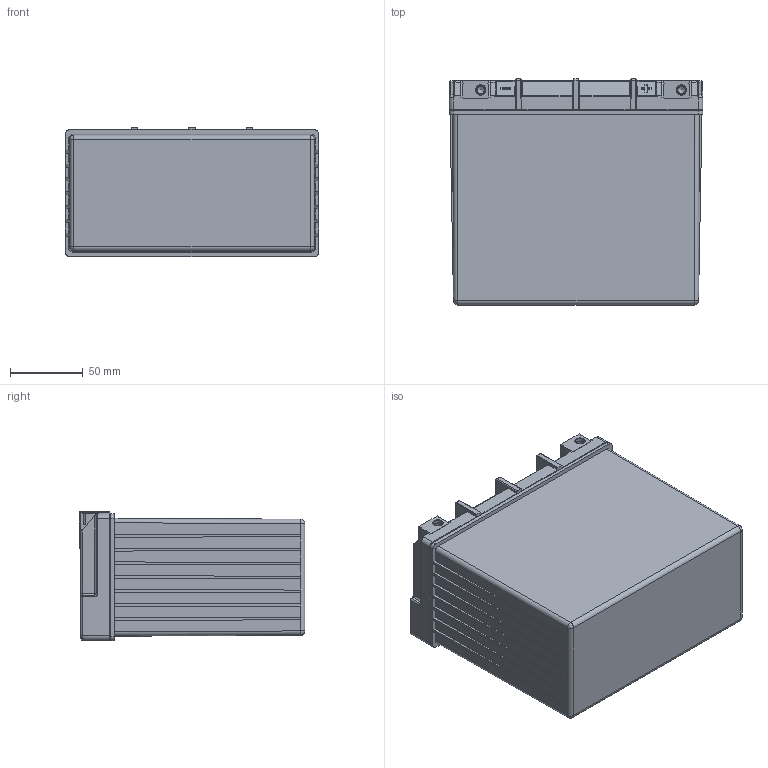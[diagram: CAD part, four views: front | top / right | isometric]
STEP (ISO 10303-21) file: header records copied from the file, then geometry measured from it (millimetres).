
FILE_DESCRIPTION (( 'STEP AP203' ), '1' );
FILE_NAME ('ODS-AGM20L.STEP', '2024-02-26T20:00:16', ( '' ), ( '' ), 'SwSTEP 2.0', 'SolidWorks 2022', '' );
FILE_SCHEMA (( 'CONFIG_CONTROL_DESIGN' ));
Length unit declared in the file: inch
Products named in the file (1): ODS-AGM20L
Bounding box: 174.37 x 155.32 x 88.88 mm (x, y, z)
Volume: 466534.7 mm3; surface area: 350142.6 mm2
Topology: 9 solids, 9 shells, 2496 faces, 6305 edges, 3640 vertices
Faces by surface type: cylinder 872, plane 830, torus 254, bspline 237, sphere 209, cone 94
Full cylindrical faces by diameter (mm): 4.978 x1, 5 x4, 7.925 x5, 13.97 x4
Entity records: 78632 total; most frequent: CARTESIAN_POINT 23402, ORIENTED_EDGE 11822, DIRECTION 11235, EDGE_CURVE 5911, AXIS2_PLACEMENT_3D 4154, VERTEX_POINT 3589, VECTOR 2927, LINE 2927
